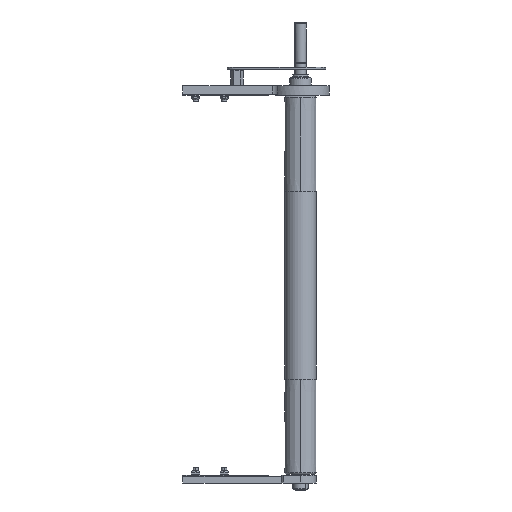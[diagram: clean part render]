
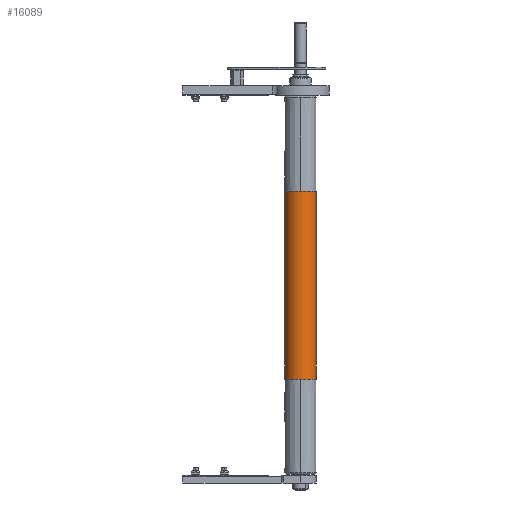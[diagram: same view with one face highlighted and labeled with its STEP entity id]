
A CAD part, front view. The second image highlights one B-rep face of the part: STEP entity #16089.
In plain terms, the highlighted cylindrical face has radius 25 mm (diameter 50 mm), a partial arc.
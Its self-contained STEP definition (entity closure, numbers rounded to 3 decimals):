
#362 = CARTESIAN_POINT ( 'NONE',  ( -147.5, 0., 0. ) ) ;
#882 = EDGE_CURVE ( 'NONE', #13250, #8409, #13873, .T. ) ;
#909 = ORIENTED_EDGE ( 'NONE', *, *, #15570, .T. ) ;
#947 = DIRECTION ( 'NONE',  ( 0., -1., 0. ) ) ;
#1192 = DIRECTION ( 'NONE',  ( 0., -1., 0. ) ) ;
#1264 = ORIENTED_EDGE ( 'NONE', *, *, #882, .F. ) ;
#1664 = DIRECTION ( 'NONE',  ( 0., -1., 0. ) ) ;
#1944 = VECTOR ( 'NONE', #9354, 1000. ) ;
#2046 = LINE ( 'NONE', #10171, #8832 ) ;
#2447 = AXIS2_PLACEMENT_3D ( 'NONE', #16417, #6148, #8713 ) ;
#2490 = CYLINDRICAL_SURFACE ( 'NONE', #2447, 25. ) ;
#2783 = CARTESIAN_POINT ( 'NONE',  ( -147.5, 0., 25. ) ) ;
#4268 = CARTESIAN_POINT ( 'NONE',  ( 295., 0., 25. ) ) ;
#4495 = AXIS2_PLACEMENT_3D ( 'NONE', #362, #9300, #1664 ) ;
#4748 = AXIS2_PLACEMENT_3D ( 'NONE', #16312, #8608, #947 ) ;
#4762 = CARTESIAN_POINT ( 'NONE',  ( 147.5, 0., 0. ) ) ;
#5089 = DIRECTION ( 'NONE',  ( -1., 0., 0. ) ) ;
#5714 = ORIENTED_EDGE ( 'NONE', *, *, #11508, .T. ) ;
#5749 = CARTESIAN_POINT ( 'NONE',  ( 147.5, 25., 0. ) ) ;
#5803 = CARTESIAN_POINT ( 'NONE',  ( 147.5, 0., -25. ) ) ;
#6062 = DIRECTION ( 'NONE',  ( 0., -1., 0. ) ) ;
#6093 = EDGE_CURVE ( 'NONE', #14582, #11834, #2046, .T. ) ;
#6148 = DIRECTION ( 'NONE',  ( -1., 0., 0. ) ) ;
#6784 = VERTEX_POINT ( 'NONE', #5749 ) ;
#6889 = EDGE_LOOP ( 'NONE', ( #909, #5714, #14853, #9284, #1264, #9863 ) ) ;
#8027 = CIRCLE ( 'NONE', #4748, 25. ) ;
#8409 = VERTEX_POINT ( 'NONE', #10806 ) ;
#8608 = DIRECTION ( 'NONE',  ( -1., 0., 0. ) ) ;
#8713 = DIRECTION ( 'NONE',  ( 0., 0., 1. ) ) ;
#8832 = VECTOR ( 'NONE', #5089, 1000. ) ;
#8842 = DIRECTION ( 'NONE',  ( -1., 0., 0. ) ) ;
#9129 = LINE ( 'NONE', #4268, #1944 ) ;
#9284 = ORIENTED_EDGE ( 'NONE', *, *, #10265, .F. ) ;
#9300 = DIRECTION ( 'NONE',  ( -1., 0., 0. ) ) ;
#9354 = DIRECTION ( 'NONE',  ( -1., 0., 0. ) ) ;
#9863 = ORIENTED_EDGE ( 'NONE', *, *, #12742, .F. ) ;
#10171 = CARTESIAN_POINT ( 'NONE',  ( 295., 0., -25. ) ) ;
#10265 = EDGE_CURVE ( 'NONE', #8409, #11834, #8027, .T. ) ;
#10523 = CARTESIAN_POINT ( 'NONE',  ( -147.5, 0., -25. ) ) ;
#10806 = CARTESIAN_POINT ( 'NONE',  ( -147.5, 25., 0. ) ) ;
#11508 = EDGE_CURVE ( 'NONE', #6784, #14582, #14607, .T. ) ;
#11834 = VERTEX_POINT ( 'NONE', #10523 ) ;
#12742 = EDGE_CURVE ( 'NONE', #13239, #13250, #9129, .T. ) ;
#12953 = CARTESIAN_POINT ( 'NONE',  ( 147.5, 0., 25. ) ) ;
#13129 = CIRCLE ( 'NONE', #15411, 25. ) ;
#13239 = VERTEX_POINT ( 'NONE', #12953 ) ;
#13250 = VERTEX_POINT ( 'NONE', #2783 ) ;
#13705 = DIRECTION ( 'NONE',  ( -1., 0., 0. ) ) ;
#13873 = CIRCLE ( 'NONE', #4495, 25. ) ;
#14582 = VERTEX_POINT ( 'NONE', #5803 ) ;
#14607 = CIRCLE ( 'NONE', #16386, 25. ) ;
#14853 = ORIENTED_EDGE ( 'NONE', *, *, #6093, .T. ) ;
#15411 = AXIS2_PLACEMENT_3D ( 'NONE', #16559, #8842, #1192 ) ;
#15570 = EDGE_CURVE ( 'NONE', #13239, #6784, #13129, .T. ) ;
#16089 = ADVANCED_FACE ( 'NONE', ( #16158 ), #2490, .T. ) ;
#16158 = FACE_OUTER_BOUND ( 'NONE', #6889, .T. ) ;
#16312 = CARTESIAN_POINT ( 'NONE',  ( -147.5, 0., 0. ) ) ;
#16386 = AXIS2_PLACEMENT_3D ( 'NONE', #4762, #13705, #6062 ) ;
#16417 = CARTESIAN_POINT ( 'NONE',  ( 295., 0., 0. ) ) ;
#16559 = CARTESIAN_POINT ( 'NONE',  ( 147.5, 0., 0. ) ) ;
